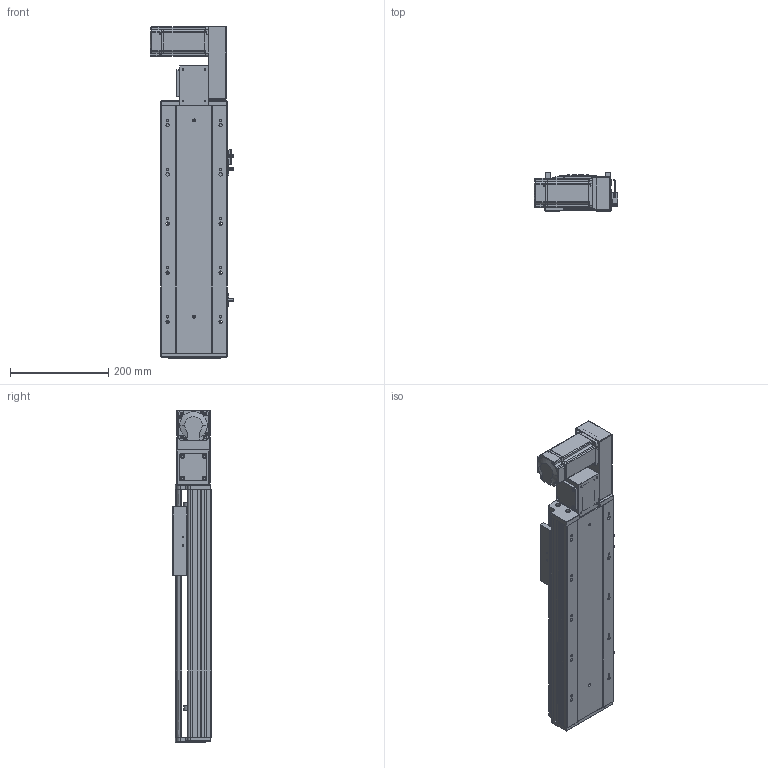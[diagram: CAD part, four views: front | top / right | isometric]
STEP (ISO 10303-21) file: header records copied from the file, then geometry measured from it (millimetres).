
FILE_DESCRIPTION (( 'STEP AP203' ), '1' );
FILE_NAME ('RY140-T-300-RK.SLDASM_250.step', '2021-03-01T06:44:50', ( '盈信电脑' ), ( '东莞市道滘镇水果街19号' ), 'SwSTEP 2.0', 'SolidWorks 2012', '' );
FILE_SCHEMA (( 'CONFIG_CONTROL_DESIGN' ));
Length unit declared in the file: millimetre
Products named in the file (17): RY140-T-300-RK.SLDASM_250; RY120-T主同步轮轴承压盖; 15; RY120-T蹟翐M4; RY140-T萇儂欶; RY140-T萇儂假蚾啣; RY140-T翋肮祭謫盓傅釱; RY120-T肮祭湍揤踡輸1; RY140-T翋肮謫裔啣; 滅袉蝶18-10; 覜茼ん672; RY140綴裔啣; RY120外置感应片(140共用）; RY120-T肮祭湍揤踡輸2; RY140肮祭謫臏賑輸; RY140-T-300-DR倰第奻裔啣_250; RY140-T-300-DR倰第菁釱_250
Assembly tree (22 placements, depth 2):
  RY140-T-300-RK.SLDASM_250
    RY140-T-300-DR倰第菁釱_250
    RY140肮祭謫臏賑輸
    RY140-T-300-DR倰第奻裔啣_250
    RY140綴裔啣
    覜茼ん672  x3
    RY120外置感应片(140共用）
    RY120-T肮祭湍揤踡輸2
    RY120-T肮祭湍揤踡輸1
    RY140-T翋肮祭謫盓傅釱
    滅袉蝶18-10  x2
    RY140-T翋肮謫裔啣
    RY140-T萇儂欶
    RY140-T萇儂假蚾啣
    RY120-T蹟翐M4  x4
    15
    RY120-T主同步轮轴承压盖
Bounding box: 170.7 x 78 x 676.5 mm (x, y, z)
Volume: 2201932.2 mm3; surface area: 792151 mm2
Topology: 22 solids, 22 shells, 2535 faces, 6917 edges, 4468 vertices
Faces by surface type: plane 1381, cylinder 884, cone 170, bspline 100
Entity records: 80022 total; most frequent: CARTESIAN_POINT 19627, ORIENTED_EDGE 12418, DIRECTION 11749, EDGE_CURVE 6209, VERTEX_POINT 4067, LINE 4057, VECTOR 4057, AXIS2_PLACEMENT_3D 3846
